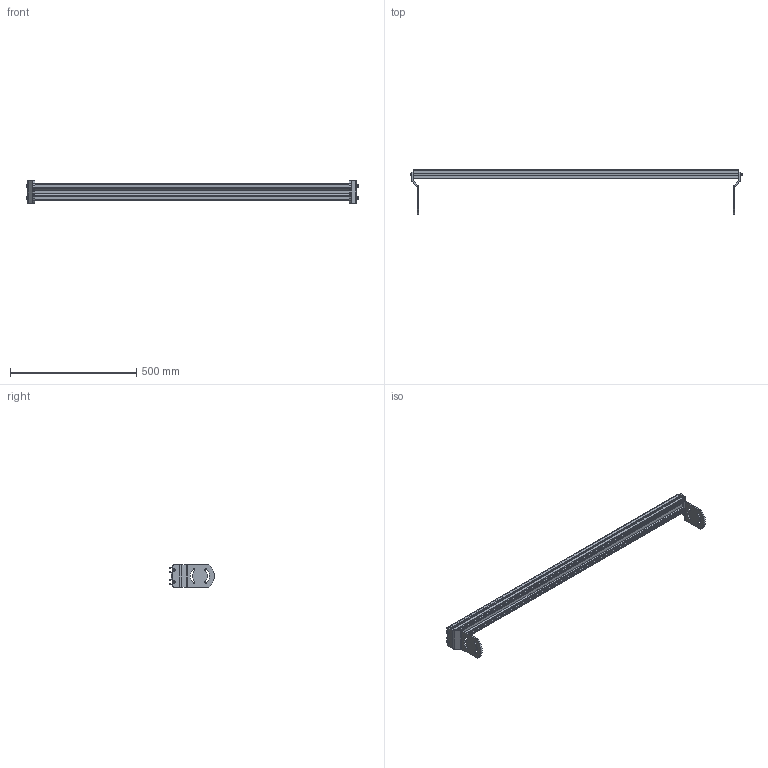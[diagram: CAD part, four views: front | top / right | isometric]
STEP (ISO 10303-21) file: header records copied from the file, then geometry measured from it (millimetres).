
FILE_DESCRIPTION((''),'2;1');
FILE_NAME('39MCM48-2_ASM','2023-03-01T',('jenni.wallner'),(''),'PRO/ENGINEER BY PARAMETRIC TECHNOLOGY CORPORATION, 2012420','PRO/ENGINEER BY PARAMETRIC TECHNOLOGY CORPORATION, 2012420','');
FILE_SCHEMA(('CONFIG_CONTROL_DESIGN'));
Length unit declared in the file: inch
Products named in the file (4): 710210_05079; 300825M; 708180P; 39MCM48-2_ASM
Assembly tree (7 placements, depth 2):
  39MCM48-2_ASM
    710210_05079
    300825M  x2
    708180P  x4
Bounding box: 1314.77 x 176.65 x 88.93 mm (x, y, z)
Volume: 1089519.8 mm3; surface area: 828649.6 mm2
Topology: 7 solids, 7 shells, 256 faces, 662 edges, 428 vertices
Faces by surface type: plane 144, cylinder 92, cone 20
Entity records: 4895 total; most frequent: CARTESIAN_POINT 859, DIRECTION 825, ORIENTED_EDGE 816, EDGE_CURVE 408, VECTOR 301, LINE 301, VERTEX_POINT 266, AXIS2_PLACEMENT_3D 262
